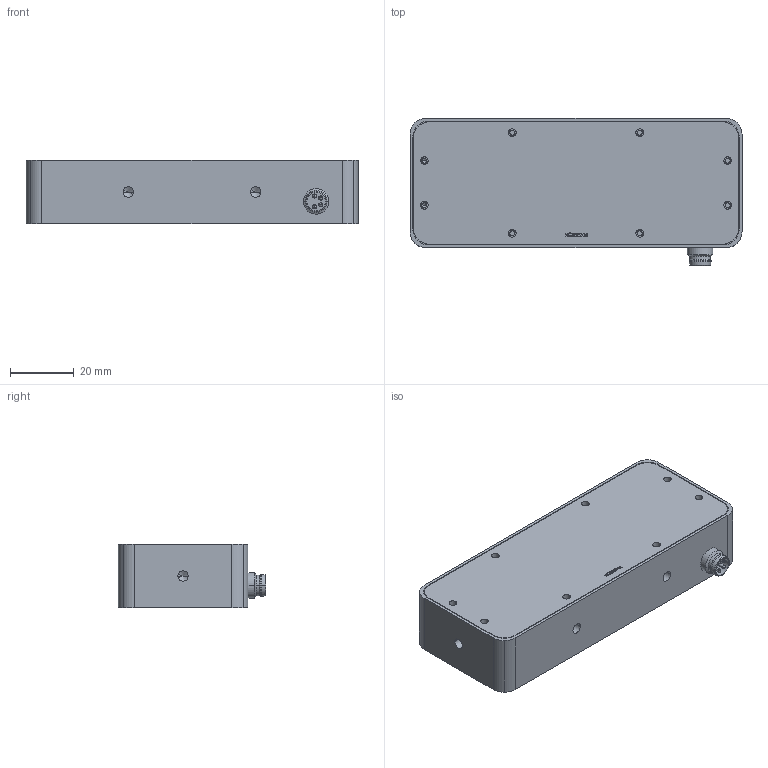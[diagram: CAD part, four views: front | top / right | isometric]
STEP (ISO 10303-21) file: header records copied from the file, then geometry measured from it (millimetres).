
FILE_DESCRIPTION(('STEP AP214'),'1');
FILE_NAME('Powerline-80 Kundenmodell ohne KK.stp','2020-12-07T14:56:43',(' '),(' '),'Spatial InterOp 3D',' ',' ');
FILE_SCHEMA(('AUTOMOTIVE_DESIGN { 1 0 10303 214 1 1 1 1 }'));
Length unit declared in the file: metre
Products named in the file (1): Volumenkörper
Bounding box: 104.2 x 46.23 x 19.8 mm (x, y, z)
Volume: 65715 mm3; surface area: 24686.8 mm2
Topology: 1 solids, 3 shells, 450 faces, 1144 edges, 683 vertices
Faces by surface type: cylinder 181, plane 145, cone 84, sphere 16, extrusion 16, bspline 6, torus 2
Entity records: 14415 total; most frequent: CARTESIAN_POINT 2998, DIRECTION 2288, ORIENTED_EDGE 2136, EDGE_CURVE 1068, AXIS2_PLACEMENT_3D 839, VERTEX_POINT 683, VECTOR 610, LINE 594
